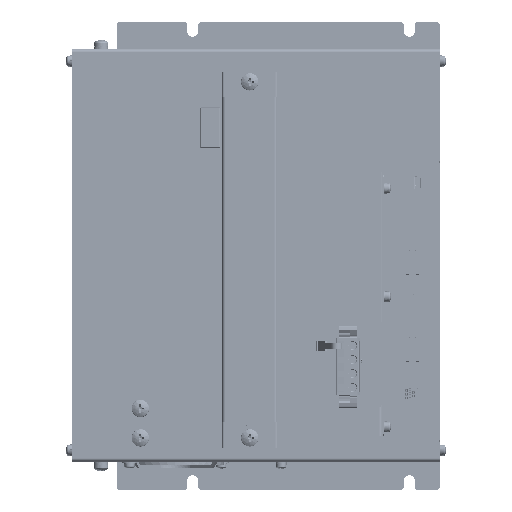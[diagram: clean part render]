
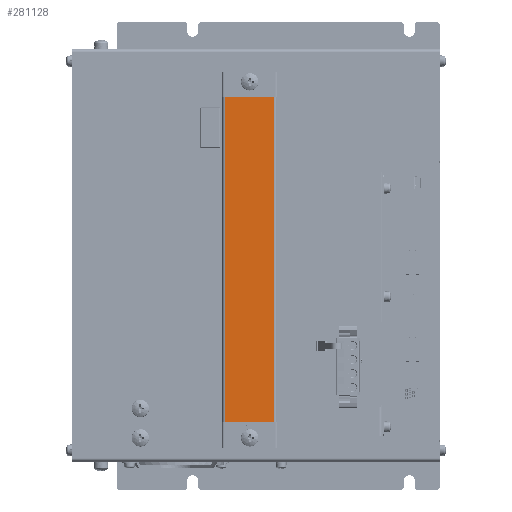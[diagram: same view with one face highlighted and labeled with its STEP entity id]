
A CAD part, top view. The second image highlights one B-rep face of the part: STEP entity #281128.
In plain terms, the highlighted planar face has unit normal (0, 0, 1).
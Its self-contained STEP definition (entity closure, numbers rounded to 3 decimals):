
#5016 = CARTESIAN_POINT ( 'NONE',  ( 110., 198.5, 26. ) ) ;
#14219 = DIRECTION ( 'NONE',  ( 0., -1., 0. ) ) ;
#22467 = CARTESIAN_POINT ( 'NONE',  ( 83.2, 198.5, 26. ) ) ;
#24881 = LINE ( 'NONE', #122156, #299999 ) ;
#29483 = LINE ( 'NONE', #278829, #285932 ) ;
#36656 = VECTOR ( 'NONE', #291865, 1000. ) ;
#50375 = AXIS2_PLACEMENT_3D ( 'NONE', #379014, #264636, #354242 ) ;
#53748 = ORIENTED_EDGE ( 'NONE', *, *, #74352, .T. ) ;
#56267 = PLANE ( 'NONE',  #50375 ) ;
#74352 = EDGE_CURVE ( 'NONE', #200295, #113819, #29483, .T. ) ;
#113819 = VERTEX_POINT ( 'NONE', #191448 ) ;
#121984 = CARTESIAN_POINT ( 'NONE',  ( 110., 21.5, 26. ) ) ;
#122156 = CARTESIAN_POINT ( 'NONE',  ( 83.2, 21.5, 26. ) ) ;
#133575 = ORIENTED_EDGE ( 'NONE', *, *, #383588, .T. ) ;
#139540 = ORIENTED_EDGE ( 'NONE', *, *, #170506, .T. ) ;
#161578 = EDGE_LOOP ( 'NONE', ( #139540, #133575, #53748, #255803 ) ) ;
#170506 = EDGE_CURVE ( 'NONE', #254055, #187954, #346109, .T. ) ;
#187954 = VERTEX_POINT ( 'NONE', #330519 ) ;
#191448 = CARTESIAN_POINT ( 'NONE',  ( 83.2, 21.5, 26. ) ) ;
#200295 = VERTEX_POINT ( 'NONE', #22467 ) ;
#213897 = LINE ( 'NONE', #346457, #36656 ) ;
#254055 = VERTEX_POINT ( 'NONE', #121984 ) ;
#255803 = ORIENTED_EDGE ( 'NONE', *, *, #285360, .T. ) ;
#264636 = DIRECTION ( 'NONE',  ( 0., 0., 1. ) ) ;
#278829 = CARTESIAN_POINT ( 'NONE',  ( 83.2, 198.5, 26. ) ) ;
#281128 = ADVANCED_FACE ( 'NONE', ( #326103 ), #56267, .T. ) ;
#285360 = EDGE_CURVE ( 'NONE', #113819, #254055, #24881, .T. ) ;
#285932 = VECTOR ( 'NONE', #14219, 1000. ) ;
#291865 = DIRECTION ( 'NONE',  ( -1., 0., 0. ) ) ;
#299999 = VECTOR ( 'NONE', #325410, 1000. ) ;
#318202 = VECTOR ( 'NONE', #367021, 1000. ) ;
#325410 = DIRECTION ( 'NONE',  ( 1., 0., 0. ) ) ;
#326103 = FACE_OUTER_BOUND ( 'NONE', #161578, .T. ) ;
#330519 = CARTESIAN_POINT ( 'NONE',  ( 110., 198.5, 26. ) ) ;
#346109 = LINE ( 'NONE', #5016, #318202 ) ;
#346457 = CARTESIAN_POINT ( 'NONE',  ( 83.2, 198.5, 26. ) ) ;
#354242 = DIRECTION ( 'NONE',  ( -1., 0., 0. ) ) ;
#367021 = DIRECTION ( 'NONE',  ( 0., 1., 0. ) ) ;
#379014 = CARTESIAN_POINT ( 'NONE',  ( 83.2, 198.5, 26. ) ) ;
#383588 = EDGE_CURVE ( 'NONE', #187954, #200295, #213897, .T. ) ;
